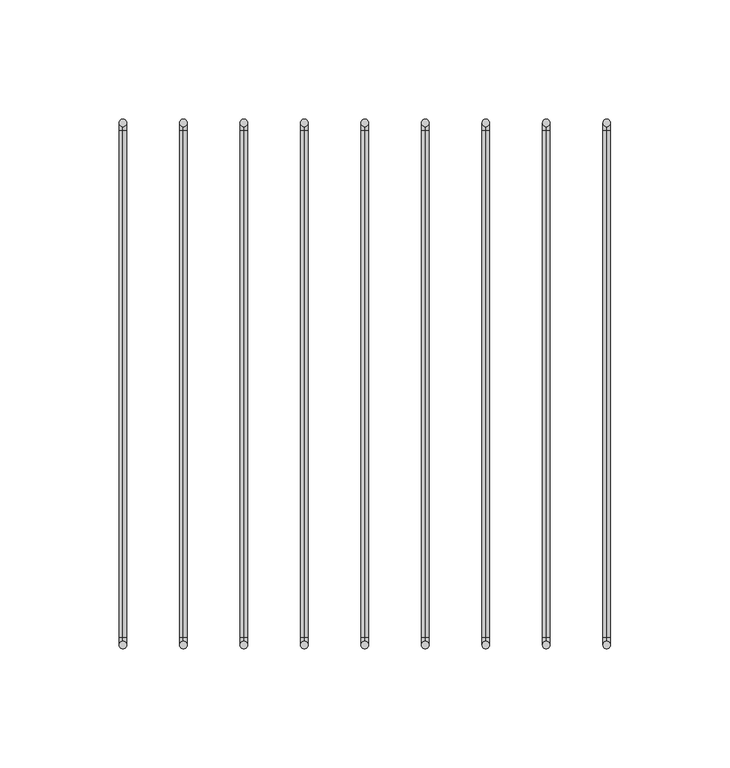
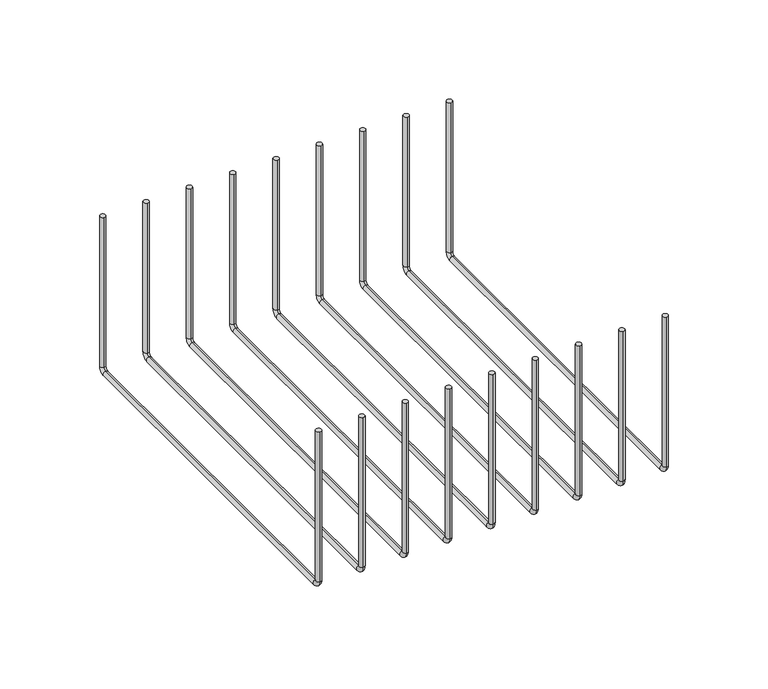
"""IFC4 building model written with IfcOpenShell, lengths in millimetres: furniture geometry."""

from ifc_helpers import new_model, si_unit, point, frame, origin, place, context, project, spatial, circle_curve, ellipse_curve, trimmed, source, transform, mapped, element, save
from ifc_brep_helpers import plane_surface, cylinder_surface, revolved_surface, advanced_brep


def furniture_615b3003(model_context):
    return source(origin(), model_context, "Body", "AdvancedBrep", [
        advanced_brep(
        [(100.71608, -152.3273724, 1694.0022), (100.71608, -149.1523724, 1694.0022), (100.71608, 69.9226276, 1694.0022), (100.71608, 66.7476276, 1694.0022), (100.71608, -152.3273724, 1601.1339034), (100.71608, -149.1523724, 1601.1339034), (100.71608, -147.5648724, 1599.5464034), (100.71608, -147.5648724, 1596.3714034), (100.71608, 65.1601276, 1596.3714034), (100.71608, 65.1601276, 1599.5464034), (100.71608, 66.7476276, 1601.1339034), (100.71608, 69.9226276, 1601.1339034)],
        [
            (0, 1, circle_curve(frame((100.71608, -150.7398724, 1694.0022), z_axis=(0.0, 0.0, 1.0), x_axis=(1.0, 0.0, 0.0)), 1.5875)),
            (1, 0, circle_curve(frame((100.71608, -150.7398724, 1694.0022), z_axis=(0.0, 0.0, 1.0), x_axis=(1.0, 0.0, 0.0)), 1.5875)),
            (2, 3, circle_curve(frame((100.71608, 68.3351276, 1694.0022), z_axis=(0.0, 0.0, 1.0), x_axis=(1.0, 0.0, 0.0)), 1.5875)),
            (3, 2, circle_curve(frame((100.71608, 68.3351276, 1694.0022), z_axis=(0.0, 0.0, 1.0), x_axis=(1.0, 0.0, 0.0)), 1.5875)),
            (0, 4),
            (4, 5, circle_curve(frame((100.71608, -150.7398724, 1601.1339034), z_axis=(0.0, 0.0, 1.0), x_axis=(1.0, 0.0, 0.0)), 1.5875)),
            (5, 1),
            (5, 4, circle_curve(frame((100.71608, -150.7398724, 1601.1339034), z_axis=(0.0, 0.0, 1.0), x_axis=(1.0, 0.0, 0.0)), 1.5875)),
            (6, 7, circle_curve(frame((100.71608, -147.5648724, 1597.9589034), z_axis=(0.0, 1.0, 0.0), x_axis=(1.0, 0.0, 0.0)), 1.5875)),
            (7, 8),
            (8, 9, circle_curve(frame((100.71608, 65.1601276, 1597.9589034), z_axis=(0.0, -1.0, 0.0), x_axis=(1.0, 0.0, 0.0)), 1.5875)),
            (9, 6),
            (7, 6, circle_curve(frame((100.71608, -147.5648724, 1597.9589034), z_axis=(0.0, 1.0, 0.0), x_axis=(1.0, 0.0, 0.0)), 1.5875)),
            (9, 8, circle_curve(frame((100.71608, 65.1601276, 1597.9589034), z_axis=(0.0, -1.0, 0.0), x_axis=(1.0, 0.0, 0.0)), 1.5875)),
            (10, 11, circle_curve(frame((100.71608, 68.3351276, 1601.1339034), z_axis=(0.0, 0.0, 1.0), x_axis=(1.0, 0.0, 0.0)), 1.5875)),
            (11, 2),
            (3, 10),
            (11, 10, circle_curve(frame((100.71608, 68.3351276, 1601.1339034), z_axis=(0.0, 0.0, 1.0), x_axis=(1.0, 0.0, 0.0)), 1.5875)),
            (6, 5, circle_curve(frame((100.71608, -147.5648724, 1601.1339034), z_axis=(-1.0, 0.0, 0.0), x_axis=(0.0, -1.0, 0.0)), 1.5875)),
            (4, 7, circle_curve(frame((100.71608, -147.5648724, 1601.1339034), z_axis=(1.0, 0.0, 0.0), x_axis=(0.0, -1.0, 0.0)), 4.7625)),
            (10, 9, circle_curve(frame((100.71608, 65.1601276, 1601.1339034), z_axis=(-1.0, 0.0, 0.0), x_axis=(0.0, 0.0, -1.0)), 1.5875)),
            (8, 11, circle_curve(frame((100.71608, 65.1601276, 1601.1339034), z_axis=(1.0, 0.0, 0.0), x_axis=(0.0, 0.0, -1.0)), 4.7625)),
        ],
        [
            plane_surface(frame((100.71608, -152.3273724, 1694.0022), z_axis=(0.0, 0.0, 1.0), x_axis=(1.0, 0.0, 0.0))),
            plane_surface(frame((100.71608, 69.9226276, 1694.0022), z_axis=(0.0, 0.0, 1.0), x_axis=(1.0, 0.0, 0.0))),
            cylinder_surface(frame((100.71608, -150.7398724, 1694.0022), z_axis=(0.0, 0.0, 1.0), x_axis=(1.0, 0.0, 0.0)), 1.5875),
            cylinder_surface(frame((100.71608, -147.5648724, 1597.9589034), z_axis=(0.0, -1.0, 0.0), x_axis=(1.0, 0.0, 0.0)), 1.5875),
            cylinder_surface(frame((100.71608, 68.3351276, 1601.1339034), z_axis=(0.0, 0.0, -1.0), x_axis=(1.0, 0.0, 0.0)), 1.5875),
            revolved_surface(trimmed(ellipse_curve(frame((100.71608, -150.7398724, 1601.1339034), z_axis=(0.0, 0.0, 1.0), x_axis=(1.0, 0.0, 0.0)), 1.5875, 1.5875), [point((100.71608, -152.3273724, 1601.1339034))], [point((100.71608, -149.1523724, 1601.1339034))], True, "CARTESIAN"), (100.71608, -147.5648724, 1601.1339034), (1.0, 0.0, 0.0)),
            revolved_surface(trimmed(ellipse_curve(frame((100.71608, -150.7398724, 1601.1339034), z_axis=(0.0, 0.0, 1.0), x_axis=(1.0, 0.0, 0.0)), 1.5875, 1.5875), [point((100.71608, -149.1523724, 1601.1339034))], [point((100.71608, -152.3273724, 1601.1339034))], True, "CARTESIAN"), (100.71608, -147.5648724, 1601.1339034), (1.0, 0.0, 0.0)),
            revolved_surface(trimmed(ellipse_curve(frame((100.71608, 65.1601276, 1597.9589034), z_axis=(0.0, -1.0, 0.0), x_axis=(1.0, 0.0, 0.0)), 1.5875, 1.5875), [point((100.71608, 65.1601276, 1596.3714034))], [point((100.71608, 65.1601276, 1599.5464034))], True, "CARTESIAN"), (100.71608, 65.1601276, 1601.1339034), (1.0, 0.0, 0.0)),
            revolved_surface(trimmed(ellipse_curve(frame((100.71608, 65.1601276, 1597.9589034), z_axis=(0.0, -1.0, 0.0), x_axis=(1.0, 0.0, 0.0)), 1.5875, 1.5875), [point((100.71608, 65.1601276, 1599.5464034))], [point((100.71608, 65.1601276, 1596.3714034))], True, "CARTESIAN"), (100.71608, 65.1601276, 1601.1339034), (1.0, 0.0, 0.0)),
        ],
        [
            (0, [[1, 2]]),
            (1, [[3, 4]]),
            (2, [[-1, 5, 6, 7]]),
            (2, [[-2, -7, 8, -5]]),
            (3, [[9, 10, 11, 12]]),
            (3, [[13, -12, 14, -10]]),
            (4, [[15, 16, -4, 17]]),
            (4, [[18, -17, -3, -16]]),
            (5, [[19, -6, 20, -9]]),
            (6, [[-20, -8, -19, -13]]),
            (7, [[21, -11, 22, -15]]),
            (8, [[-22, -14, -21, -18]]),
        ],
    ),
        advanced_brep(
        [(75.31608, -152.3273724, 1694.0022), (75.31608, -149.1523724, 1694.0022), (75.31608, 69.9226276, 1694.0022), (75.31608, 66.7476276, 1694.0022), (75.31608, -152.3273724, 1601.1339034), (75.31608, -149.1523724, 1601.1339034), (75.31608, -147.5648724, 1599.5464034), (75.31608, -147.5648724, 1596.3714034), (75.31608, 65.1601276, 1596.3714034), (75.31608, 65.1601276, 1599.5464034), (75.31608, 66.7476276, 1601.1339034), (75.31608, 69.9226276, 1601.1339034)],
        [
            (0, 1, circle_curve(frame((75.31608, -150.7398724, 1694.0022), z_axis=(0.0, 0.0, 1.0), x_axis=(1.0, 0.0, 0.0)), 1.5875)),
            (1, 0, circle_curve(frame((75.31608, -150.7398724, 1694.0022), z_axis=(0.0, 0.0, 1.0), x_axis=(1.0, 0.0, 0.0)), 1.5875)),
            (2, 3, circle_curve(frame((75.31608, 68.3351276, 1694.0022), z_axis=(0.0, 0.0, 1.0), x_axis=(1.0, 0.0, 0.0)), 1.5875)),
            (3, 2, circle_curve(frame((75.31608, 68.3351276, 1694.0022), z_axis=(0.0, 0.0, 1.0), x_axis=(1.0, 0.0, 0.0)), 1.5875)),
            (0, 4),
            (4, 5, circle_curve(frame((75.31608, -150.7398724, 1601.1339034), z_axis=(0.0, 0.0, 1.0), x_axis=(1.0, 0.0, 0.0)), 1.5875)),
            (5, 1),
            (5, 4, circle_curve(frame((75.31608, -150.7398724, 1601.1339034), z_axis=(0.0, 0.0, 1.0), x_axis=(1.0, 0.0, 0.0)), 1.5875)),
            (6, 7, circle_curve(frame((75.31608, -147.5648724, 1597.9589034), z_axis=(0.0, 1.0, 0.0), x_axis=(1.0, 0.0, 0.0)), 1.5875)),
            (7, 8),
            (8, 9, circle_curve(frame((75.31608, 65.1601276, 1597.9589034), z_axis=(0.0, -1.0, 0.0), x_axis=(1.0, 0.0, 0.0)), 1.5875)),
            (9, 6),
            (7, 6, circle_curve(frame((75.31608, -147.5648724, 1597.9589034), z_axis=(0.0, 1.0, 0.0), x_axis=(1.0, 0.0, 0.0)), 1.5875)),
            (9, 8, circle_curve(frame((75.31608, 65.1601276, 1597.9589034), z_axis=(0.0, -1.0, 0.0), x_axis=(1.0, 0.0, 0.0)), 1.5875)),
            (10, 11, circle_curve(frame((75.31608, 68.3351276, 1601.1339034), z_axis=(0.0, 0.0, 1.0), x_axis=(1.0, 0.0, 0.0)), 1.5875)),
            (11, 2),
            (3, 10),
            (11, 10, circle_curve(frame((75.31608, 68.3351276, 1601.1339034), z_axis=(0.0, 0.0, 1.0), x_axis=(1.0, 0.0, 0.0)), 1.5875)),
            (6, 5, circle_curve(frame((75.31608, -147.5648724, 1601.1339034), z_axis=(-1.0, 0.0, 0.0), x_axis=(0.0, -1.0, 0.0)), 1.5875)),
            (4, 7, circle_curve(frame((75.31608, -147.5648724, 1601.1339034), z_axis=(1.0, 0.0, 0.0), x_axis=(0.0, -1.0, 0.0)), 4.7625)),
            (10, 9, circle_curve(frame((75.31608, 65.1601276, 1601.1339034), z_axis=(-1.0, 0.0, 0.0), x_axis=(0.0, 0.0, -1.0)), 1.5875)),
            (8, 11, circle_curve(frame((75.31608, 65.1601276, 1601.1339034), z_axis=(1.0, 0.0, 0.0), x_axis=(0.0, 0.0, -1.0)), 4.7625)),
        ],
        [
            plane_surface(frame((75.31608, -152.3273724, 1694.0022), z_axis=(0.0, 0.0, 1.0), x_axis=(1.0, 0.0, 0.0))),
            plane_surface(frame((75.31608, 69.9226276, 1694.0022), z_axis=(0.0, 0.0, 1.0), x_axis=(1.0, 0.0, 0.0))),
            cylinder_surface(frame((75.31608, -150.7398724, 1694.0022), z_axis=(0.0, 0.0, 1.0), x_axis=(1.0, 0.0, 0.0)), 1.5875),
            cylinder_surface(frame((75.31608, -147.5648724, 1597.9589034), z_axis=(0.0, -1.0, 0.0), x_axis=(1.0, 0.0, 0.0)), 1.5875),
            cylinder_surface(frame((75.31608, 68.3351276, 1601.1339034), z_axis=(0.0, 0.0, -1.0), x_axis=(1.0, 0.0, 0.0)), 1.5875),
            revolved_surface(trimmed(ellipse_curve(frame((75.31608, -150.7398724, 1601.1339034), z_axis=(0.0, 0.0, 1.0), x_axis=(1.0, 0.0, 0.0)), 1.5875, 1.5875), [point((75.31608, -152.3273724, 1601.1339034))], [point((75.31608, -149.1523724, 1601.1339034))], True, "CARTESIAN"), (75.31608, -147.5648724, 1601.1339034), (1.0, 0.0, 0.0)),
            revolved_surface(trimmed(ellipse_curve(frame((75.31608, -150.7398724, 1601.1339034), z_axis=(0.0, 0.0, 1.0), x_axis=(1.0, 0.0, 0.0)), 1.5875, 1.5875), [point((75.31608, -149.1523724, 1601.1339034))], [point((75.31608, -152.3273724, 1601.1339034))], True, "CARTESIAN"), (75.31608, -147.5648724, 1601.1339034), (1.0, 0.0, 0.0)),
            revolved_surface(trimmed(ellipse_curve(frame((75.31608, 65.1601276, 1597.9589034), z_axis=(0.0, -1.0, 0.0), x_axis=(1.0, 0.0, 0.0)), 1.5875, 1.5875), [point((75.31608, 65.1601276, 1596.3714034))], [point((75.31608, 65.1601276, 1599.5464034))], True, "CARTESIAN"), (75.31608, 65.1601276, 1601.1339034), (1.0, 0.0, 0.0)),
            revolved_surface(trimmed(ellipse_curve(frame((75.31608, 65.1601276, 1597.9589034), z_axis=(0.0, -1.0, 0.0), x_axis=(1.0, 0.0, 0.0)), 1.5875, 1.5875), [point((75.31608, 65.1601276, 1599.5464034))], [point((75.31608, 65.1601276, 1596.3714034))], True, "CARTESIAN"), (75.31608, 65.1601276, 1601.1339034), (1.0, 0.0, 0.0)),
        ],
        [
            (0, [[1, 2]]),
            (1, [[3, 4]]),
            (2, [[-1, 5, 6, 7]]),
            (2, [[-2, -7, 8, -5]]),
            (3, [[9, 10, 11, 12]]),
            (3, [[13, -12, 14, -10]]),
            (4, [[15, 16, -4, 17]]),
            (4, [[18, -17, -3, -16]]),
            (5, [[19, -6, 20, -9]]),
            (6, [[-20, -8, -19, -13]]),
            (7, [[21, -11, 22, -15]]),
            (8, [[-22, -14, -21, -18]]),
        ],
    ),
        advanced_brep(
        [(49.91608, -152.3273724, 1694.0022), (49.91608, -149.1523724, 1694.0022), (49.91608, 69.9226276, 1694.0022), (49.91608, 66.7476276, 1694.0022), (49.91608, -152.3273724, 1601.1339034), (49.91608, -149.1523724, 1601.1339034), (49.91608, -147.5648724, 1599.5464034), (49.91608, -147.5648724, 1596.3714034), (49.91608, 65.1601276, 1596.3714034), (49.91608, 65.1601276, 1599.5464034), (49.91608, 66.7476276, 1601.1339034), (49.91608, 69.9226276, 1601.1339034)],
        [
            (0, 1, circle_curve(frame((49.91608, -150.7398724, 1694.0022), z_axis=(0.0, 0.0, 1.0), x_axis=(1.0, 0.0, 0.0)), 1.5875)),
            (1, 0, circle_curve(frame((49.91608, -150.7398724, 1694.0022), z_axis=(0.0, 0.0, 1.0), x_axis=(1.0, 0.0, 0.0)), 1.5875)),
            (2, 3, circle_curve(frame((49.91608, 68.3351276, 1694.0022), z_axis=(0.0, 0.0, 1.0), x_axis=(1.0, 0.0, 0.0)), 1.5875)),
            (3, 2, circle_curve(frame((49.91608, 68.3351276, 1694.0022), z_axis=(0.0, 0.0, 1.0), x_axis=(1.0, 0.0, 0.0)), 1.5875)),
            (0, 4),
            (4, 5, circle_curve(frame((49.91608, -150.7398724, 1601.1339034), z_axis=(0.0, 0.0, 1.0), x_axis=(1.0, 0.0, 0.0)), 1.5875)),
            (5, 1),
            (5, 4, circle_curve(frame((49.91608, -150.7398724, 1601.1339034), z_axis=(0.0, 0.0, 1.0), x_axis=(1.0, 0.0, 0.0)), 1.5875)),
            (6, 7, circle_curve(frame((49.91608, -147.5648724, 1597.9589034), z_axis=(0.0, 1.0, 0.0), x_axis=(1.0, 0.0, 0.0)), 1.5875)),
            (7, 8),
            (8, 9, circle_curve(frame((49.91608, 65.1601276, 1597.9589034), z_axis=(0.0, -1.0, 0.0), x_axis=(1.0, 0.0, 0.0)), 1.5875)),
            (9, 6),
            (7, 6, circle_curve(frame((49.91608, -147.5648724, 1597.9589034), z_axis=(0.0, 1.0, 0.0), x_axis=(1.0, 0.0, 0.0)), 1.5875)),
            (9, 8, circle_curve(frame((49.91608, 65.1601276, 1597.9589034), z_axis=(0.0, -1.0, 0.0), x_axis=(1.0, 0.0, 0.0)), 1.5875)),
            (10, 11, circle_curve(frame((49.91608, 68.3351276, 1601.1339034), z_axis=(0.0, 0.0, 1.0), x_axis=(1.0, 0.0, 0.0)), 1.5875)),
            (11, 2),
            (3, 10),
            (11, 10, circle_curve(frame((49.91608, 68.3351276, 1601.1339034), z_axis=(0.0, 0.0, 1.0), x_axis=(1.0, 0.0, 0.0)), 1.5875)),
            (6, 5, circle_curve(frame((49.91608, -147.5648724, 1601.1339034), z_axis=(-1.0, 0.0, 0.0), x_axis=(0.0, -1.0, 0.0)), 1.5875)),
            (4, 7, circle_curve(frame((49.91608, -147.5648724, 1601.1339034), z_axis=(1.0, 0.0, 0.0), x_axis=(0.0, -1.0, 0.0)), 4.7625)),
            (10, 9, circle_curve(frame((49.91608, 65.1601276, 1601.1339034), z_axis=(-1.0, 0.0, 0.0), x_axis=(0.0, 0.0, -1.0)), 1.5875)),
            (8, 11, circle_curve(frame((49.91608, 65.1601276, 1601.1339034), z_axis=(1.0, 0.0, 0.0), x_axis=(0.0, 0.0, -1.0)), 4.7625)),
        ],
        [
            plane_surface(frame((49.91608, -152.3273724, 1694.0022), z_axis=(0.0, 0.0, 1.0), x_axis=(1.0, 0.0, 0.0))),
            plane_surface(frame((49.91608, 69.9226276, 1694.0022), z_axis=(0.0, 0.0, 1.0), x_axis=(1.0, 0.0, 0.0))),
            cylinder_surface(frame((49.91608, -150.7398724, 1694.0022), z_axis=(0.0, 0.0, 1.0), x_axis=(1.0, 0.0, 0.0)), 1.5875),
            cylinder_surface(frame((49.91608, -147.5648724, 1597.9589034), z_axis=(0.0, -1.0, 0.0), x_axis=(1.0, 0.0, 0.0)), 1.5875),
            cylinder_surface(frame((49.91608, 68.3351276, 1601.1339034), z_axis=(0.0, 0.0, -1.0), x_axis=(1.0, 0.0, 0.0)), 1.5875),
            revolved_surface(trimmed(ellipse_curve(frame((49.91608, -150.7398724, 1601.1339034), z_axis=(0.0, 0.0, 1.0), x_axis=(1.0, 0.0, 0.0)), 1.5875, 1.5875), [point((49.91608, -152.3273724, 1601.1339034))], [point((49.91608, -149.1523724, 1601.1339034))], True, "CARTESIAN"), (49.91608, -147.5648724, 1601.1339034), (1.0, 0.0, 0.0)),
            revolved_surface(trimmed(ellipse_curve(frame((49.91608, -150.7398724, 1601.1339034), z_axis=(0.0, 0.0, 1.0), x_axis=(1.0, 0.0, 0.0)), 1.5875, 1.5875), [point((49.91608, -149.1523724, 1601.1339034))], [point((49.91608, -152.3273724, 1601.1339034))], True, "CARTESIAN"), (49.91608, -147.5648724, 1601.1339034), (1.0, 0.0, 0.0)),
            revolved_surface(trimmed(ellipse_curve(frame((49.91608, 65.1601276, 1597.9589034), z_axis=(0.0, -1.0, 0.0), x_axis=(1.0, 0.0, 0.0)), 1.5875, 1.5875), [point((49.91608, 65.1601276, 1596.3714034))], [point((49.91608, 65.1601276, 1599.5464034))], True, "CARTESIAN"), (49.91608, 65.1601276, 1601.1339034), (1.0, 0.0, 0.0)),
            revolved_surface(trimmed(ellipse_curve(frame((49.91608, 65.1601276, 1597.9589034), z_axis=(0.0, -1.0, 0.0), x_axis=(1.0, 0.0, 0.0)), 1.5875, 1.5875), [point((49.91608, 65.1601276, 1599.5464034))], [point((49.91608, 65.1601276, 1596.3714034))], True, "CARTESIAN"), (49.91608, 65.1601276, 1601.1339034), (1.0, 0.0, 0.0)),
        ],
        [
            (0, [[1, 2]]),
            (1, [[3, 4]]),
            (2, [[-1, 5, 6, 7]]),
            (2, [[-2, -7, 8, -5]]),
            (3, [[9, 10, 11, 12]]),
            (3, [[13, -12, 14, -10]]),
            (4, [[15, 16, -4, 17]]),
            (4, [[18, -17, -3, -16]]),
            (5, [[19, -6, 20, -9]]),
            (6, [[-20, -8, -19, -13]]),
            (7, [[21, -11, 22, -15]]),
            (8, [[-22, -14, -21, -18]]),
        ],
    ),
        advanced_brep(
        [(24.51608, -152.3273724, 1694.0022), (24.51608, -149.1523724, 1694.0022), (24.51608, 69.9226276, 1694.0022), (24.51608, 66.7476276, 1694.0022), (24.51608, -152.3273724, 1601.1339034), (24.51608, -149.1523724, 1601.1339034), (24.51608, -147.5648724, 1599.5464034), (24.51608, -147.5648724, 1596.3714034), (24.51608, 65.1601276, 1596.3714034), (24.51608, 65.1601276, 1599.5464034), (24.51608, 66.7476276, 1601.1339034), (24.51608, 69.9226276, 1601.1339034)],
        [
            (0, 1, circle_curve(frame((24.51608, -150.7398724, 1694.0022), z_axis=(0.0, 0.0, 1.0), x_axis=(1.0, 0.0, 0.0)), 1.5875)),
            (1, 0, circle_curve(frame((24.51608, -150.7398724, 1694.0022), z_axis=(0.0, 0.0, 1.0), x_axis=(1.0, 0.0, 0.0)), 1.5875)),
            (2, 3, circle_curve(frame((24.51608, 68.3351276, 1694.0022), z_axis=(0.0, 0.0, 1.0), x_axis=(1.0, 0.0, 0.0)), 1.5875)),
            (3, 2, circle_curve(frame((24.51608, 68.3351276, 1694.0022), z_axis=(0.0, 0.0, 1.0), x_axis=(1.0, 0.0, 0.0)), 1.5875)),
            (0, 4),
            (4, 5, circle_curve(frame((24.51608, -150.7398724, 1601.1339034), z_axis=(0.0, 0.0, 1.0), x_axis=(1.0, 0.0, 0.0)), 1.5875)),
            (5, 1),
            (5, 4, circle_curve(frame((24.51608, -150.7398724, 1601.1339034), z_axis=(0.0, 0.0, 1.0), x_axis=(1.0, 0.0, 0.0)), 1.5875)),
            (6, 7, circle_curve(frame((24.51608, -147.5648724, 1597.9589034), z_axis=(0.0, 1.0, 0.0), x_axis=(1.0, 0.0, 0.0)), 1.5875)),
            (7, 8),
            (8, 9, circle_curve(frame((24.51608, 65.1601276, 1597.9589034), z_axis=(0.0, -1.0, 0.0), x_axis=(1.0, 0.0, 0.0)), 1.5875)),
            (9, 6),
            (7, 6, circle_curve(frame((24.51608, -147.5648724, 1597.9589034), z_axis=(0.0, 1.0, 0.0), x_axis=(1.0, 0.0, 0.0)), 1.5875)),
            (9, 8, circle_curve(frame((24.51608, 65.1601276, 1597.9589034), z_axis=(0.0, -1.0, 0.0), x_axis=(1.0, 0.0, 0.0)), 1.5875)),
            (10, 11, circle_curve(frame((24.51608, 68.3351276, 1601.1339034), z_axis=(0.0, 0.0, 1.0), x_axis=(1.0, 0.0, 0.0)), 1.5875)),
            (11, 2),
            (3, 10),
            (11, 10, circle_curve(frame((24.51608, 68.3351276, 1601.1339034), z_axis=(0.0, 0.0, 1.0), x_axis=(1.0, 0.0, 0.0)), 1.5875)),
            (6, 5, circle_curve(frame((24.51608, -147.5648724, 1601.1339034), z_axis=(-1.0, 0.0, 0.0), x_axis=(0.0, -1.0, 0.0)), 1.5875)),
            (4, 7, circle_curve(frame((24.51608, -147.5648724, 1601.1339034), z_axis=(1.0, 0.0, 0.0), x_axis=(0.0, -1.0, 0.0)), 4.7625)),
            (10, 9, circle_curve(frame((24.51608, 65.1601276, 1601.1339034), z_axis=(-1.0, 0.0, 0.0), x_axis=(0.0, 0.0, -1.0)), 1.5875)),
            (8, 11, circle_curve(frame((24.51608, 65.1601276, 1601.1339034), z_axis=(1.0, 0.0, 0.0), x_axis=(0.0, 0.0, -1.0)), 4.7625)),
        ],
        [
            plane_surface(frame((24.51608, -152.3273724, 1694.0022), z_axis=(0.0, 0.0, 1.0), x_axis=(1.0, 0.0, 0.0))),
            plane_surface(frame((24.51608, 69.9226276, 1694.0022), z_axis=(0.0, 0.0, 1.0), x_axis=(1.0, 0.0, 0.0))),
            cylinder_surface(frame((24.51608, -150.7398724, 1694.0022), z_axis=(0.0, 0.0, 1.0), x_axis=(1.0, 0.0, 0.0)), 1.5875),
            cylinder_surface(frame((24.51608, -147.5648724, 1597.9589034), z_axis=(0.0, -1.0, 0.0), x_axis=(1.0, 0.0, 0.0)), 1.5875),
            cylinder_surface(frame((24.51608, 68.3351276, 1601.1339034), z_axis=(0.0, 0.0, -1.0), x_axis=(1.0, 0.0, 0.0)), 1.5875),
            revolved_surface(trimmed(ellipse_curve(frame((24.51608, -150.7398724, 1601.1339034), z_axis=(0.0, 0.0, 1.0), x_axis=(1.0, 0.0, 0.0)), 1.5875, 1.5875), [point((24.51608, -152.3273724, 1601.1339034))], [point((24.51608, -149.1523724, 1601.1339034))], True, "CARTESIAN"), (24.51608, -147.5648724, 1601.1339034), (1.0, 0.0, 0.0)),
            revolved_surface(trimmed(ellipse_curve(frame((24.51608, -150.7398724, 1601.1339034), z_axis=(0.0, 0.0, 1.0), x_axis=(1.0, 0.0, 0.0)), 1.5875, 1.5875), [point((24.51608, -149.1523724, 1601.1339034))], [point((24.51608, -152.3273724, 1601.1339034))], True, "CARTESIAN"), (24.51608, -147.5648724, 1601.1339034), (1.0, 0.0, 0.0)),
            revolved_surface(trimmed(ellipse_curve(frame((24.51608, 65.1601276, 1597.9589034), z_axis=(0.0, -1.0, 0.0), x_axis=(1.0, 0.0, 0.0)), 1.5875, 1.5875), [point((24.51608, 65.1601276, 1596.3714034))], [point((24.51608, 65.1601276, 1599.5464034))], True, "CARTESIAN"), (24.51608, 65.1601276, 1601.1339034), (1.0, 0.0, 0.0)),
            revolved_surface(trimmed(ellipse_curve(frame((24.51608, 65.1601276, 1597.9589034), z_axis=(0.0, -1.0, 0.0), x_axis=(1.0, 0.0, 0.0)), 1.5875, 1.5875), [point((24.51608, 65.1601276, 1599.5464034))], [point((24.51608, 65.1601276, 1596.3714034))], True, "CARTESIAN"), (24.51608, 65.1601276, 1601.1339034), (1.0, 0.0, 0.0)),
        ],
        [
            (0, [[1, 2]]),
            (1, [[3, 4]]),
            (2, [[-1, 5, 6, 7]]),
            (2, [[-2, -7, 8, -5]]),
            (3, [[9, 10, 11, 12]]),
            (3, [[13, -12, 14, -10]]),
            (4, [[15, 16, -4, 17]]),
            (4, [[18, -17, -3, -16]]),
            (5, [[19, -6, 20, -9]]),
            (6, [[-20, -8, -19, -13]]),
            (7, [[21, -11, 22, -15]]),
            (8, [[-22, -14, -21, -18]]),
        ],
    ),
        advanced_brep(
        [(-0.88392, -152.3273724, 1694.0022), (-0.88392, -149.1523724, 1694.0022), (-0.88392, 69.9226276, 1694.0022), (-0.88392, 66.7476276, 1694.0022), (-0.88392, -152.3273724, 1601.1339034), (-0.88392, -149.1523724, 1601.1339034), (-0.88392, -147.5648724, 1599.5464034), (-0.88392, -147.5648724, 1596.3714034), (-0.88392, 65.1601276, 1596.3714034), (-0.88392, 65.1601276, 1599.5464034), (-0.88392, 66.7476276, 1601.1339034), (-0.88392, 69.9226276, 1601.1339034)],
        [
            (0, 1, circle_curve(frame((-0.88392, -150.7398724, 1694.0022), z_axis=(0.0, 0.0, 1.0), x_axis=(1.0, 0.0, 0.0)), 1.5875)),
            (1, 0, circle_curve(frame((-0.88392, -150.7398724, 1694.0022), z_axis=(0.0, 0.0, 1.0), x_axis=(1.0, 0.0, 0.0)), 1.5875)),
            (2, 3, circle_curve(frame((-0.88392, 68.3351276, 1694.0022), z_axis=(0.0, 0.0, 1.0), x_axis=(1.0, 0.0, 0.0)), 1.5875)),
            (3, 2, circle_curve(frame((-0.88392, 68.3351276, 1694.0022), z_axis=(0.0, 0.0, 1.0), x_axis=(1.0, 0.0, 0.0)), 1.5875)),
            (0, 4),
            (4, 5, circle_curve(frame((-0.88392, -150.7398724, 1601.1339034), z_axis=(0.0, 0.0, 1.0), x_axis=(1.0, 0.0, 0.0)), 1.5875)),
            (5, 1),
            (5, 4, circle_curve(frame((-0.88392, -150.7398724, 1601.1339034), z_axis=(0.0, 0.0, 1.0), x_axis=(1.0, 0.0, 0.0)), 1.5875)),
            (6, 7, circle_curve(frame((-0.88392, -147.5648724, 1597.9589034), z_axis=(0.0, 1.0, 0.0), x_axis=(1.0, 0.0, 0.0)), 1.5875)),
            (7, 8),
            (8, 9, circle_curve(frame((-0.88392, 65.1601276, 1597.9589034), z_axis=(0.0, -1.0, 0.0), x_axis=(1.0, 0.0, 0.0)), 1.5875)),
            (9, 6),
            (7, 6, circle_curve(frame((-0.88392, -147.5648724, 1597.9589034), z_axis=(0.0, 1.0, 0.0), x_axis=(1.0, 0.0, 0.0)), 1.5875)),
            (9, 8, circle_curve(frame((-0.88392, 65.1601276, 1597.9589034), z_axis=(0.0, -1.0, 0.0), x_axis=(1.0, 0.0, 0.0)), 1.5875)),
            (10, 11, circle_curve(frame((-0.88392, 68.3351276, 1601.1339034), z_axis=(0.0, 0.0, 1.0), x_axis=(1.0, 0.0, 0.0)), 1.5875)),
            (11, 2),
            (3, 10),
            (11, 10, circle_curve(frame((-0.88392, 68.3351276, 1601.1339034), z_axis=(0.0, 0.0, 1.0), x_axis=(1.0, 0.0, 0.0)), 1.5875)),
            (6, 5, circle_curve(frame((-0.88392, -147.5648724, 1601.1339034), z_axis=(-1.0, 0.0, 0.0), x_axis=(0.0, -1.0, 0.0)), 1.5875)),
            (4, 7, circle_curve(frame((-0.88392, -147.5648724, 1601.1339034), z_axis=(1.0, 0.0, 0.0), x_axis=(0.0, -1.0, 0.0)), 4.7625)),
            (10, 9, circle_curve(frame((-0.88392, 65.1601276, 1601.1339034), z_axis=(-1.0, 0.0, 0.0), x_axis=(0.0, 0.0, -1.0)), 1.5875)),
            (8, 11, circle_curve(frame((-0.88392, 65.1601276, 1601.1339034), z_axis=(1.0, 0.0, 0.0), x_axis=(0.0, 0.0, -1.0)), 4.7625)),
        ],
        [
            plane_surface(frame((-0.88392, -152.3273724, 1694.0022), z_axis=(0.0, 0.0, 1.0), x_axis=(1.0, 0.0, 0.0))),
            plane_surface(frame((-0.88392, 69.9226276, 1694.0022), z_axis=(0.0, 0.0, 1.0), x_axis=(1.0, 0.0, 0.0))),
            cylinder_surface(frame((-0.88392, -150.7398724, 1694.0022), z_axis=(0.0, 0.0, 1.0), x_axis=(1.0, 0.0, 0.0)), 1.5875),
            cylinder_surface(frame((-0.88392, -147.5648724, 1597.9589034), z_axis=(0.0, -1.0, 0.0), x_axis=(1.0, 0.0, 0.0)), 1.5875),
            cylinder_surface(frame((-0.88392, 68.3351276, 1601.1339034), z_axis=(0.0, 0.0, -1.0), x_axis=(1.0, 0.0, 0.0)), 1.5875),
            revolved_surface(trimmed(ellipse_curve(frame((-0.88392, -150.7398724, 1601.1339034), z_axis=(0.0, 0.0, 1.0), x_axis=(1.0, 0.0, 0.0)), 1.5875, 1.5875), [point((-0.88392, -152.3273724, 1601.1339034))], [point((-0.88392, -149.1523724, 1601.1339034))], True, "CARTESIAN"), (-0.88392, -147.5648724, 1601.1339034), (1.0, 0.0, 0.0)),
            revolved_surface(trimmed(ellipse_curve(frame((-0.88392, -150.7398724, 1601.1339034), z_axis=(0.0, 0.0, 1.0), x_axis=(1.0, 0.0, 0.0)), 1.5875, 1.5875), [point((-0.88392, -149.1523724, 1601.1339034))], [point((-0.88392, -152.3273724, 1601.1339034))], True, "CARTESIAN"), (-0.88392, -147.5648724, 1601.1339034), (1.0, 0.0, 0.0)),
            revolved_surface(trimmed(ellipse_curve(frame((-0.88392, 65.1601276, 1597.9589034), z_axis=(0.0, -1.0, 0.0), x_axis=(1.0, 0.0, 0.0)), 1.5875, 1.5875), [point((-0.88392, 65.1601276, 1596.3714034))], [point((-0.88392, 65.1601276, 1599.5464034))], True, "CARTESIAN"), (-0.88392, 65.1601276, 1601.1339034), (1.0, 0.0, 0.0)),
            revolved_surface(trimmed(ellipse_curve(frame((-0.88392, 65.1601276, 1597.9589034), z_axis=(0.0, -1.0, 0.0), x_axis=(1.0, 0.0, 0.0)), 1.5875, 1.5875), [point((-0.88392, 65.1601276, 1599.5464034))], [point((-0.88392, 65.1601276, 1596.3714034))], True, "CARTESIAN"), (-0.88392, 65.1601276, 1601.1339034), (1.0, 0.0, 0.0)),
        ],
        [
            (0, [[1, 2]]),
            (1, [[3, 4]]),
            (2, [[-1, 5, 6, 7]]),
            (2, [[-2, -7, 8, -5]]),
            (3, [[9, 10, 11, 12]]),
            (3, [[13, -12, 14, -10]]),
            (4, [[15, 16, -4, 17]]),
            (4, [[18, -17, -3, -16]]),
            (5, [[19, -6, 20, -9]]),
            (6, [[-20, -8, -19, -13]]),
            (7, [[21, -11, 22, -15]]),
            (8, [[-22, -14, -21, -18]]),
        ],
    ),
        advanced_brep(
        [(-26.28392, -152.3273724, 1694.0022), (-26.28392, -149.1523724, 1694.0022), (-26.28392, 69.9226276, 1694.0022), (-26.28392, 66.7476276, 1694.0022), (-26.28392, -152.3273724, 1601.1339034), (-26.28392, -149.1523724, 1601.1339034), (-26.28392, -147.5648724, 1599.5464034), (-26.28392, -147.5648724, 1596.3714034), (-26.28392, 65.1601276, 1596.3714034), (-26.28392, 65.1601276, 1599.5464034), (-26.28392, 66.7476276, 1601.1339034), (-26.28392, 69.9226276, 1601.1339034)],
        [
            (0, 1, circle_curve(frame((-26.28392, -150.7398724, 1694.0022), z_axis=(0.0, 0.0, 1.0), x_axis=(1.0, 0.0, 0.0)), 1.5875)),
            (1, 0, circle_curve(frame((-26.28392, -150.7398724, 1694.0022), z_axis=(0.0, 0.0, 1.0), x_axis=(1.0, 0.0, 0.0)), 1.5875)),
            (2, 3, circle_curve(frame((-26.28392, 68.3351276, 1694.0022), z_axis=(0.0, 0.0, 1.0), x_axis=(1.0, 0.0, 0.0)), 1.5875)),
            (3, 2, circle_curve(frame((-26.28392, 68.3351276, 1694.0022), z_axis=(0.0, 0.0, 1.0), x_axis=(1.0, 0.0, 0.0)), 1.5875)),
            (0, 4),
            (4, 5, circle_curve(frame((-26.28392, -150.7398724, 1601.1339034), z_axis=(0.0, 0.0, 1.0), x_axis=(1.0, 0.0, 0.0)), 1.5875)),
            (5, 1),
            (5, 4, circle_curve(frame((-26.28392, -150.7398724, 1601.1339034), z_axis=(0.0, 0.0, 1.0), x_axis=(1.0, 0.0, 0.0)), 1.5875)),
            (6, 7, circle_curve(frame((-26.28392, -147.5648724, 1597.9589034), z_axis=(0.0, 1.0, 0.0), x_axis=(1.0, 0.0, 0.0)), 1.5875)),
            (7, 8),
            (8, 9, circle_curve(frame((-26.28392, 65.1601276, 1597.9589034), z_axis=(0.0, -1.0, 0.0), x_axis=(1.0, 0.0, 0.0)), 1.5875)),
            (9, 6),
            (7, 6, circle_curve(frame((-26.28392, -147.5648724, 1597.9589034), z_axis=(0.0, 1.0, 0.0), x_axis=(1.0, 0.0, 0.0)), 1.5875)),
            (9, 8, circle_curve(frame((-26.28392, 65.1601276, 1597.9589034), z_axis=(0.0, -1.0, 0.0), x_axis=(1.0, 0.0, 0.0)), 1.5875)),
            (10, 11, circle_curve(frame((-26.28392, 68.3351276, 1601.1339034), z_axis=(0.0, 0.0, 1.0), x_axis=(1.0, 0.0, 0.0)), 1.5875)),
            (11, 2),
            (3, 10),
            (11, 10, circle_curve(frame((-26.28392, 68.3351276, 1601.1339034), z_axis=(0.0, 0.0, 1.0), x_axis=(1.0, 0.0, 0.0)), 1.5875)),
            (6, 5, circle_curve(frame((-26.28392, -147.5648724, 1601.1339034), z_axis=(-1.0, 0.0, 0.0), x_axis=(0.0, -1.0, 0.0)), 1.5875)),
            (4, 7, circle_curve(frame((-26.28392, -147.5648724, 1601.1339034), z_axis=(1.0, 0.0, 0.0), x_axis=(0.0, -1.0, 0.0)), 4.7625)),
            (10, 9, circle_curve(frame((-26.28392, 65.1601276, 1601.1339034), z_axis=(-1.0, 0.0, 0.0), x_axis=(0.0, 0.0, -1.0)), 1.5875)),
            (8, 11, circle_curve(frame((-26.28392, 65.1601276, 1601.1339034), z_axis=(1.0, 0.0, 0.0), x_axis=(0.0, 0.0, -1.0)), 4.7625)),
        ],
        [
            plane_surface(frame((-26.28392, -152.3273724, 1694.0022), z_axis=(0.0, 0.0, 1.0), x_axis=(1.0, 0.0, 0.0))),
            plane_surface(frame((-26.28392, 69.9226276, 1694.0022), z_axis=(0.0, 0.0, 1.0), x_axis=(1.0, 0.0, 0.0))),
            cylinder_surface(frame((-26.28392, -150.7398724, 1694.0022), z_axis=(0.0, 0.0, 1.0), x_axis=(1.0, 0.0, 0.0)), 1.5875),
            cylinder_surface(frame((-26.28392, -147.5648724, 1597.9589034), z_axis=(0.0, -1.0, 0.0), x_axis=(1.0, 0.0, 0.0)), 1.5875),
            cylinder_surface(frame((-26.28392, 68.3351276, 1601.1339034), z_axis=(0.0, 0.0, -1.0), x_axis=(1.0, 0.0, 0.0)), 1.5875),
            revolved_surface(trimmed(ellipse_curve(frame((-26.28392, -150.7398724, 1601.1339034), z_axis=(0.0, 0.0, 1.0), x_axis=(1.0, 0.0, 0.0)), 1.5875, 1.5875), [point((-26.28392, -152.3273724, 1601.1339034))], [point((-26.28392, -149.1523724, 1601.1339034))], True, "CARTESIAN"), (-26.28392, -147.5648724, 1601.1339034), (1.0, 0.0, 0.0)),
            revolved_surface(trimmed(ellipse_curve(frame((-26.28392, -150.7398724, 1601.1339034), z_axis=(0.0, 0.0, 1.0), x_axis=(1.0, 0.0, 0.0)), 1.5875, 1.5875), [point((-26.28392, -149.1523724, 1601.1339034))], [point((-26.28392, -152.3273724, 1601.1339034))], True, "CARTESIAN"), (-26.28392, -147.5648724, 1601.1339034), (1.0, 0.0, 0.0)),
            revolved_surface(trimmed(ellipse_curve(frame((-26.28392, 65.1601276, 1597.9589034), z_axis=(0.0, -1.0, 0.0), x_axis=(1.0, 0.0, 0.0)), 1.5875, 1.5875), [point((-26.28392, 65.1601276, 1596.3714034))], [point((-26.28392, 65.1601276, 1599.5464034))], True, "CARTESIAN"), (-26.28392, 65.1601276, 1601.1339034), (1.0, 0.0, 0.0)),
            revolved_surface(trimmed(ellipse_curve(frame((-26.28392, 65.1601276, 1597.9589034), z_axis=(0.0, -1.0, 0.0), x_axis=(1.0, 0.0, 0.0)), 1.5875, 1.5875), [point((-26.28392, 65.1601276, 1599.5464034))], [point((-26.28392, 65.1601276, 1596.3714034))], True, "CARTESIAN"), (-26.28392, 65.1601276, 1601.1339034), (1.0, 0.0, 0.0)),
        ],
        [
            (0, [[1, 2]]),
            (1, [[3, 4]]),
            (2, [[-1, 5, 6, 7]]),
            (2, [[-2, -7, 8, -5]]),
            (3, [[9, 10, 11, 12]]),
            (3, [[13, -12, 14, -10]]),
            (4, [[15, 16, -4, 17]]),
            (4, [[18, -17, -3, -16]]),
            (5, [[19, -6, 20, -9]]),
            (6, [[-20, -8, -19, -13]]),
            (7, [[21, -11, 22, -15]]),
            (8, [[-22, -14, -21, -18]]),
        ],
    ),
        advanced_brep(
        [(-51.68392, -152.3273724, 1694.0022), (-51.68392, -149.1523724, 1694.0022), (-51.68392, 69.9226276, 1694.0022), (-51.68392, 66.7476276, 1694.0022), (-51.68392, -152.3273724, 1601.1339034), (-51.68392, -149.1523724, 1601.1339034), (-51.68392, -147.5648724, 1599.5464034), (-51.68392, -147.5648724, 1596.3714034), (-51.68392, 65.1601276, 1596.3714034), (-51.68392, 65.1601276, 1599.5464034), (-51.68392, 66.7476276, 1601.1339034), (-51.68392, 69.9226276, 1601.1339034)],
        [
            (0, 1, circle_curve(frame((-51.68392, -150.7398724, 1694.0022), z_axis=(0.0, 0.0, 1.0), x_axis=(1.0, 0.0, 0.0)), 1.5875)),
            (1, 0, circle_curve(frame((-51.68392, -150.7398724, 1694.0022), z_axis=(0.0, 0.0, 1.0), x_axis=(1.0, 0.0, 0.0)), 1.5875)),
            (2, 3, circle_curve(frame((-51.68392, 68.3351276, 1694.0022), z_axis=(0.0, 0.0, 1.0), x_axis=(1.0, 0.0, 0.0)), 1.5875)),
            (3, 2, circle_curve(frame((-51.68392, 68.3351276, 1694.0022), z_axis=(0.0, 0.0, 1.0), x_axis=(1.0, 0.0, 0.0)), 1.5875)),
            (0, 4),
            (4, 5, circle_curve(frame((-51.68392, -150.7398724, 1601.1339034), z_axis=(0.0, 0.0, 1.0), x_axis=(1.0, 0.0, 0.0)), 1.5875)),
            (5, 1),
            (5, 4, circle_curve(frame((-51.68392, -150.7398724, 1601.1339034), z_axis=(0.0, 0.0, 1.0), x_axis=(1.0, 0.0, 0.0)), 1.5875)),
            (6, 7, circle_curve(frame((-51.68392, -147.5648724, 1597.9589034), z_axis=(0.0, 1.0, 0.0), x_axis=(1.0, 0.0, 0.0)), 1.5875)),
            (7, 8),
            (8, 9, circle_curve(frame((-51.68392, 65.1601276, 1597.9589034), z_axis=(0.0, -1.0, 0.0), x_axis=(1.0, 0.0, 0.0)), 1.5875)),
            (9, 6),
            (7, 6, circle_curve(frame((-51.68392, -147.5648724, 1597.9589034), z_axis=(0.0, 1.0, 0.0), x_axis=(1.0, 0.0, 0.0)), 1.5875)),
            (9, 8, circle_curve(frame((-51.68392, 65.1601276, 1597.9589034), z_axis=(0.0, -1.0, 0.0), x_axis=(1.0, 0.0, 0.0)), 1.5875)),
            (10, 11, circle_curve(frame((-51.68392, 68.3351276, 1601.1339034), z_axis=(0.0, 0.0, 1.0), x_axis=(1.0, 0.0, 0.0)), 1.5875)),
            (11, 2),
            (3, 10),
            (11, 10, circle_curve(frame((-51.68392, 68.3351276, 1601.1339034), z_axis=(0.0, 0.0, 1.0), x_axis=(1.0, 0.0, 0.0)), 1.5875)),
            (6, 5, circle_curve(frame((-51.68392, -147.5648724, 1601.1339034), z_axis=(-1.0, 0.0, 0.0), x_axis=(0.0, -1.0, 0.0)), 1.5875)),
            (4, 7, circle_curve(frame((-51.68392, -147.5648724, 1601.1339034), z_axis=(1.0, 0.0, 0.0), x_axis=(0.0, -1.0, 0.0)), 4.7625)),
            (10, 9, circle_curve(frame((-51.68392, 65.1601276, 1601.1339034), z_axis=(-1.0, 0.0, 0.0), x_axis=(0.0, 0.0, -1.0)), 1.5875)),
            (8, 11, circle_curve(frame((-51.68392, 65.1601276, 1601.1339034), z_axis=(1.0, 0.0, 0.0), x_axis=(0.0, 0.0, -1.0)), 4.7625)),
        ],
        [
            plane_surface(frame((-51.68392, -152.3273724, 1694.0022), z_axis=(0.0, 0.0, 1.0), x_axis=(1.0, 0.0, 0.0))),
            plane_surface(frame((-51.68392, 69.9226276, 1694.0022), z_axis=(0.0, 0.0, 1.0), x_axis=(1.0, 0.0, 0.0))),
            cylinder_surface(frame((-51.68392, -150.7398724, 1694.0022), z_axis=(0.0, 0.0, 1.0), x_axis=(1.0, 0.0, 0.0)), 1.5875),
            cylinder_surface(frame((-51.68392, -147.5648724, 1597.9589034), z_axis=(0.0, -1.0, 0.0), x_axis=(1.0, 0.0, 0.0)), 1.5875),
            cylinder_surface(frame((-51.68392, 68.3351276, 1601.1339034), z_axis=(0.0, 0.0, -1.0), x_axis=(1.0, 0.0, 0.0)), 1.5875),
            revolved_surface(trimmed(ellipse_curve(frame((-51.68392, -150.7398724, 1601.1339034), z_axis=(0.0, 0.0, 1.0), x_axis=(1.0, 0.0, 0.0)), 1.5875, 1.5875), [point((-51.68392, -152.3273724, 1601.1339034))], [point((-51.68392, -149.1523724, 1601.1339034))], True, "CARTESIAN"), (-51.68392, -147.5648724, 1601.1339034), (1.0, 0.0, 0.0)),
            revolved_surface(trimmed(ellipse_curve(frame((-51.68392, -150.7398724, 1601.1339034), z_axis=(0.0, 0.0, 1.0), x_axis=(1.0, 0.0, 0.0)), 1.5875, 1.5875), [point((-51.68392, -149.1523724, 1601.1339034))], [point((-51.68392, -152.3273724, 1601.1339034))], True, "CARTESIAN"), (-51.68392, -147.5648724, 1601.1339034), (1.0, 0.0, 0.0)),
            revolved_surface(trimmed(ellipse_curve(frame((-51.68392, 65.1601276, 1597.9589034), z_axis=(0.0, -1.0, 0.0), x_axis=(1.0, 0.0, 0.0)), 1.5875, 1.5875), [point((-51.68392, 65.1601276, 1596.3714034))], [point((-51.68392, 65.1601276, 1599.5464034))], True, "CARTESIAN"), (-51.68392, 65.1601276, 1601.1339034), (1.0, 0.0, 0.0)),
            revolved_surface(trimmed(ellipse_curve(frame((-51.68392, 65.1601276, 1597.9589034), z_axis=(0.0, -1.0, 0.0), x_axis=(1.0, 0.0, 0.0)), 1.5875, 1.5875), [point((-51.68392, 65.1601276, 1599.5464034))], [point((-51.68392, 65.1601276, 1596.3714034))], True, "CARTESIAN"), (-51.68392, 65.1601276, 1601.1339034), (1.0, 0.0, 0.0)),
        ],
        [
            (0, [[1, 2]]),
            (1, [[3, 4]]),
            (2, [[-1, 5, 6, 7]]),
            (2, [[-2, -7, 8, -5]]),
            (3, [[9, 10, 11, 12]]),
            (3, [[13, -12, 14, -10]]),
            (4, [[15, 16, -4, 17]]),
            (4, [[18, -17, -3, -16]]),
            (5, [[19, -6, 20, -9]]),
            (6, [[-20, -8, -19, -13]]),
            (7, [[21, -11, 22, -15]]),
            (8, [[-22, -14, -21, -18]]),
        ],
    ),
        advanced_brep(
        [(-77.08392, -152.3273724, 1694.0022), (-77.08392, -149.1523724, 1694.0022), (-77.08392, 69.9226276, 1694.0022), (-77.08392, 66.7476276, 1694.0022), (-77.08392, -152.3273724, 1601.1339034), (-77.08392, -149.1523724, 1601.1339034), (-77.08392, -147.5648724, 1599.5464034), (-77.08392, -147.5648724, 1596.3714034), (-77.08392, 65.1601276, 1596.3714034), (-77.08392, 65.1601276, 1599.5464034), (-77.08392, 66.7476276, 1601.1339034), (-77.08392, 69.9226276, 1601.1339034)],
        [
            (0, 1, circle_curve(frame((-77.08392, -150.7398724, 1694.0022), z_axis=(0.0, 0.0, 1.0), x_axis=(1.0, 0.0, 0.0)), 1.5875)),
            (1, 0, circle_curve(frame((-77.08392, -150.7398724, 1694.0022), z_axis=(0.0, 0.0, 1.0), x_axis=(1.0, 0.0, 0.0)), 1.5875)),
            (2, 3, circle_curve(frame((-77.08392, 68.3351276, 1694.0022), z_axis=(0.0, 0.0, 1.0), x_axis=(1.0, 0.0, 0.0)), 1.5875)),
            (3, 2, circle_curve(frame((-77.08392, 68.3351276, 1694.0022), z_axis=(0.0, 0.0, 1.0), x_axis=(1.0, 0.0, 0.0)), 1.5875)),
            (0, 4),
            (4, 5, circle_curve(frame((-77.08392, -150.7398724, 1601.1339034), z_axis=(0.0, 0.0, 1.0), x_axis=(1.0, 0.0, 0.0)), 1.5875)),
            (5, 1),
            (5, 4, circle_curve(frame((-77.08392, -150.7398724, 1601.1339034), z_axis=(0.0, 0.0, 1.0), x_axis=(1.0, 0.0, 0.0)), 1.5875)),
            (6, 7, circle_curve(frame((-77.08392, -147.5648724, 1597.9589034), z_axis=(0.0, 1.0, 0.0), x_axis=(1.0, 0.0, 0.0)), 1.5875)),
            (7, 8),
            (8, 9, circle_curve(frame((-77.08392, 65.1601276, 1597.9589034), z_axis=(0.0, -1.0, 0.0), x_axis=(1.0, 0.0, 0.0)), 1.5875)),
            (9, 6),
            (7, 6, circle_curve(frame((-77.08392, -147.5648724, 1597.9589034), z_axis=(0.0, 1.0, 0.0), x_axis=(1.0, 0.0, 0.0)), 1.5875)),
            (9, 8, circle_curve(frame((-77.08392, 65.1601276, 1597.9589034), z_axis=(0.0, -1.0, 0.0), x_axis=(1.0, 0.0, 0.0)), 1.5875)),
            (10, 11, circle_curve(frame((-77.08392, 68.3351276, 1601.1339034), z_axis=(0.0, 0.0, 1.0), x_axis=(1.0, 0.0, 0.0)), 1.5875)),
            (11, 2),
            (3, 10),
            (11, 10, circle_curve(frame((-77.08392, 68.3351276, 1601.1339034), z_axis=(0.0, 0.0, 1.0), x_axis=(1.0, 0.0, 0.0)), 1.5875)),
            (6, 5, circle_curve(frame((-77.08392, -147.5648724, 1601.1339034), z_axis=(-1.0, 0.0, 0.0), x_axis=(0.0, -1.0, 0.0)), 1.5875)),
            (4, 7, circle_curve(frame((-77.08392, -147.5648724, 1601.1339034), z_axis=(1.0, 0.0, 0.0), x_axis=(0.0, -1.0, 0.0)), 4.7625)),
            (10, 9, circle_curve(frame((-77.08392, 65.1601276, 1601.1339034), z_axis=(-1.0, 0.0, 0.0), x_axis=(0.0, 0.0, -1.0)), 1.5875)),
            (8, 11, circle_curve(frame((-77.08392, 65.1601276, 1601.1339034), z_axis=(1.0, 0.0, 0.0), x_axis=(0.0, 0.0, -1.0)), 4.7625)),
        ],
        [
            plane_surface(frame((-77.08392, -152.3273724, 1694.0022), z_axis=(0.0, 0.0, 1.0), x_axis=(1.0, 0.0, 0.0))),
            plane_surface(frame((-77.08392, 69.9226276, 1694.0022), z_axis=(0.0, 0.0, 1.0), x_axis=(1.0, 0.0, 0.0))),
            cylinder_surface(frame((-77.08392, -150.7398724, 1694.0022), z_axis=(0.0, 0.0, 1.0), x_axis=(1.0, 0.0, 0.0)), 1.5875),
            cylinder_surface(frame((-77.08392, -147.5648724, 1597.9589034), z_axis=(0.0, -1.0, 0.0), x_axis=(1.0, 0.0, 0.0)), 1.5875),
            cylinder_surface(frame((-77.08392, 68.3351276, 1601.1339034), z_axis=(0.0, 0.0, -1.0), x_axis=(1.0, 0.0, 0.0)), 1.5875),
            revolved_surface(trimmed(ellipse_curve(frame((-77.08392, -150.7398724, 1601.1339034), z_axis=(0.0, 0.0, 1.0), x_axis=(1.0, 0.0, 0.0)), 1.5875, 1.5875), [point((-77.08392, -152.3273724, 1601.1339034))], [point((-77.08392, -149.1523724, 1601.1339034))], True, "CARTESIAN"), (-77.08392, -147.5648724, 1601.1339034), (1.0, 0.0, 0.0)),
            revolved_surface(trimmed(ellipse_curve(frame((-77.08392, -150.7398724, 1601.1339034), z_axis=(0.0, 0.0, 1.0), x_axis=(1.0, 0.0, 0.0)), 1.5875, 1.5875), [point((-77.08392, -149.1523724, 1601.1339034))], [point((-77.08392, -152.3273724, 1601.1339034))], True, "CARTESIAN"), (-77.08392, -147.5648724, 1601.1339034), (1.0, 0.0, 0.0)),
            revolved_surface(trimmed(ellipse_curve(frame((-77.08392, 65.1601276, 1597.9589034), z_axis=(0.0, -1.0, 0.0), x_axis=(1.0, 0.0, 0.0)), 1.5875, 1.5875), [point((-77.08392, 65.1601276, 1596.3714034))], [point((-77.08392, 65.1601276, 1599.5464034))], True, "CARTESIAN"), (-77.08392, 65.1601276, 1601.1339034), (1.0, 0.0, 0.0)),
            revolved_surface(trimmed(ellipse_curve(frame((-77.08392, 65.1601276, 1597.9589034), z_axis=(0.0, -1.0, 0.0), x_axis=(1.0, 0.0, 0.0)), 1.5875, 1.5875), [point((-77.08392, 65.1601276, 1599.5464034))], [point((-77.08392, 65.1601276, 1596.3714034))], True, "CARTESIAN"), (-77.08392, 65.1601276, 1601.1339034), (1.0, 0.0, 0.0)),
        ],
        [
            (0, [[1, 2]]),
            (1, [[3, 4]]),
            (2, [[-1, 5, 6, 7]]),
            (2, [[-2, -7, 8, -5]]),
            (3, [[9, 10, 11, 12]]),
            (3, [[13, -12, 14, -10]]),
            (4, [[15, 16, -4, 17]]),
            (4, [[18, -17, -3, -16]]),
            (5, [[19, -6, 20, -9]]),
            (6, [[-20, -8, -19, -13]]),
            (7, [[21, -11, 22, -15]]),
            (8, [[-22, -14, -21, -18]]),
        ],
    ),
        advanced_brep(
        [(-102.48392, -152.3273724, 1694.0022), (-102.48392, -149.1523724, 1694.0022), (-102.48392, 69.9226276, 1694.0022), (-102.48392, 66.7476276, 1694.0022), (-102.48392, -152.3273724, 1601.1339034), (-102.48392, -149.1523724, 1601.1339034), (-102.48392, -147.5648724, 1599.5464034), (-102.48392, -147.5648724, 1596.3714034), (-102.48392, 65.1601276, 1596.3714034), (-102.48392, 65.1601276, 1599.5464034), (-102.48392, 66.7476276, 1601.1339034), (-102.48392, 69.9226276, 1601.1339034)],
        [
            (0, 1, circle_curve(frame((-102.48392, -150.7398724, 1694.0022), z_axis=(0.0, 0.0, 1.0), x_axis=(1.0, 0.0, 0.0)), 1.5875)),
            (1, 0, circle_curve(frame((-102.48392, -150.7398724, 1694.0022), z_axis=(0.0, 0.0, 1.0), x_axis=(1.0, 0.0, 0.0)), 1.5875)),
            (2, 3, circle_curve(frame((-102.48392, 68.3351276, 1694.0022), z_axis=(0.0, 0.0, 1.0), x_axis=(1.0, 0.0, 0.0)), 1.5875)),
            (3, 2, circle_curve(frame((-102.48392, 68.3351276, 1694.0022), z_axis=(0.0, 0.0, 1.0), x_axis=(1.0, 0.0, 0.0)), 1.5875)),
            (0, 4),
            (4, 5, circle_curve(frame((-102.48392, -150.7398724, 1601.1339034), z_axis=(0.0, 0.0, 1.0), x_axis=(1.0, 0.0, 0.0)), 1.5875)),
            (5, 1),
            (5, 4, circle_curve(frame((-102.48392, -150.7398724, 1601.1339034), z_axis=(0.0, 0.0, 1.0), x_axis=(1.0, 0.0, 0.0)), 1.5875)),
            (6, 7, circle_curve(frame((-102.48392, -147.5648724, 1597.9589034), z_axis=(0.0, 1.0, 0.0), x_axis=(1.0, 0.0, 0.0)), 1.5875)),
            (7, 8),
            (8, 9, circle_curve(frame((-102.48392, 65.1601276, 1597.9589034), z_axis=(0.0, -1.0, 0.0), x_axis=(1.0, 0.0, 0.0)), 1.5875)),
            (9, 6),
            (7, 6, circle_curve(frame((-102.48392, -147.5648724, 1597.9589034), z_axis=(0.0, 1.0, 0.0), x_axis=(1.0, 0.0, 0.0)), 1.5875)),
            (9, 8, circle_curve(frame((-102.48392, 65.1601276, 1597.9589034), z_axis=(0.0, -1.0, 0.0), x_axis=(1.0, 0.0, 0.0)), 1.5875)),
            (10, 11, circle_curve(frame((-102.48392, 68.3351276, 1601.1339034), z_axis=(0.0, 0.0, 1.0), x_axis=(1.0, 0.0, 0.0)), 1.5875)),
            (11, 2),
            (3, 10),
            (11, 10, circle_curve(frame((-102.48392, 68.3351276, 1601.1339034), z_axis=(0.0, 0.0, 1.0), x_axis=(1.0, 0.0, 0.0)), 1.5875)),
            (6, 5, circle_curve(frame((-102.48392, -147.5648724, 1601.1339034), z_axis=(-1.0, 0.0, 0.0), x_axis=(0.0, -1.0, 0.0)), 1.5875)),
            (4, 7, circle_curve(frame((-102.48392, -147.5648724, 1601.1339034), z_axis=(1.0, 0.0, 0.0), x_axis=(0.0, -1.0, 0.0)), 4.7625)),
            (10, 9, circle_curve(frame((-102.48392, 65.1601276, 1601.1339034), z_axis=(-1.0, 0.0, 0.0), x_axis=(0.0, 0.0, -1.0)), 1.5875)),
            (8, 11, circle_curve(frame((-102.48392, 65.1601276, 1601.1339034), z_axis=(1.0, 0.0, 0.0), x_axis=(0.0, 0.0, -1.0)), 4.7625)),
        ],
        [
            plane_surface(frame((-102.48392, -152.3273724, 1694.0022), z_axis=(0.0, 0.0, 1.0), x_axis=(1.0, 0.0, 0.0))),
            plane_surface(frame((-102.48392, 69.9226276, 1694.0022), z_axis=(0.0, 0.0, 1.0), x_axis=(1.0, 0.0, 0.0))),
            cylinder_surface(frame((-102.48392, -150.7398724, 1694.0022), z_axis=(0.0, 0.0, 1.0), x_axis=(1.0, 0.0, 0.0)), 1.5875),
            cylinder_surface(frame((-102.48392, -147.5648724, 1597.9589034), z_axis=(0.0, -1.0, 0.0), x_axis=(1.0, 0.0, 0.0)), 1.5875),
            cylinder_surface(frame((-102.48392, 68.3351276, 1601.1339034), z_axis=(0.0, 0.0, -1.0), x_axis=(1.0, 0.0, 0.0)), 1.5875),
            revolved_surface(trimmed(ellipse_curve(frame((-102.48392, -150.7398724, 1601.1339034), z_axis=(0.0, 0.0, 1.0), x_axis=(1.0, 0.0, 0.0)), 1.5875, 1.5875), [point((-102.48392, -152.3273724, 1601.1339034))], [point((-102.48392, -149.1523724, 1601.1339034))], True, "CARTESIAN"), (-102.48392, -147.5648724, 1601.1339034), (1.0, 0.0, 0.0)),
            revolved_surface(trimmed(ellipse_curve(frame((-102.48392, -150.7398724, 1601.1339034), z_axis=(0.0, 0.0, 1.0), x_axis=(1.0, 0.0, 0.0)), 1.5875, 1.5875), [point((-102.48392, -149.1523724, 1601.1339034))], [point((-102.48392, -152.3273724, 1601.1339034))], True, "CARTESIAN"), (-102.48392, -147.5648724, 1601.1339034), (1.0, 0.0, 0.0)),
            revolved_surface(trimmed(ellipse_curve(frame((-102.48392, 65.1601276, 1597.9589034), z_axis=(0.0, -1.0, 0.0), x_axis=(1.0, 0.0, 0.0)), 1.5875, 1.5875), [point((-102.48392, 65.1601276, 1596.3714034))], [point((-102.48392, 65.1601276, 1599.5464034))], True, "CARTESIAN"), (-102.48392, 65.1601276, 1601.1339034), (1.0, 0.0, 0.0)),
            revolved_surface(trimmed(ellipse_curve(frame((-102.48392, 65.1601276, 1597.9589034), z_axis=(0.0, -1.0, 0.0), x_axis=(1.0, 0.0, 0.0)), 1.5875, 1.5875), [point((-102.48392, 65.1601276, 1599.5464034))], [point((-102.48392, 65.1601276, 1596.3714034))], True, "CARTESIAN"), (-102.48392, 65.1601276, 1601.1339034), (1.0, 0.0, 0.0)),
        ],
        [
            (0, [[1, 2]]),
            (1, [[3, 4]]),
            (2, [[-1, 5, 6, 7]]),
            (2, [[-2, -7, 8, -5]]),
            (3, [[9, 10, 11, 12]]),
            (3, [[13, -12, 14, -10]]),
            (4, [[15, 16, -4, 17]]),
            (4, [[18, -17, -3, -16]]),
            (5, [[19, -6, 20, -9]]),
            (6, [[-20, -8, -19, -13]]),
            (7, [[21, -11, 22, -15]]),
            (8, [[-22, -14, -21, -18]]),
        ],
    ),
    ])


if __name__ == "__main__":
    model = new_model("IFC4")
    model_context = context("Model", 3, world=origin())
    ifc_project = project(units=[si_unit("LENGTHUNIT", "METRE", prefix="MILLI")], contexts=[model_context])
    site = spatial("IfcSite", under=ifc_project)
    building = spatial("IfcBuilding", under=site)
    placement = place(None, origin())
    furniture_shape = furniture_615b3003(model_context)
    element("IfcFurniture", 1, ObjectType="HermanMiller_Carts_CT720_SupplyBasket : 5\"H x 9\"D x 18\"W Supply Basket", at=placement, inside=building, context=model_context, shape_type="MappedRepresentation", body=[
        mapped(furniture_shape, transform((0.0, 0.0, 0.0), x_axis=(1.0, 0.0, 0.0), y_axis=(0.0, 1.0, 0.0), z_axis=(0.0, 0.0, 1.0))),
    ])
    save(model, "model.ifc")
